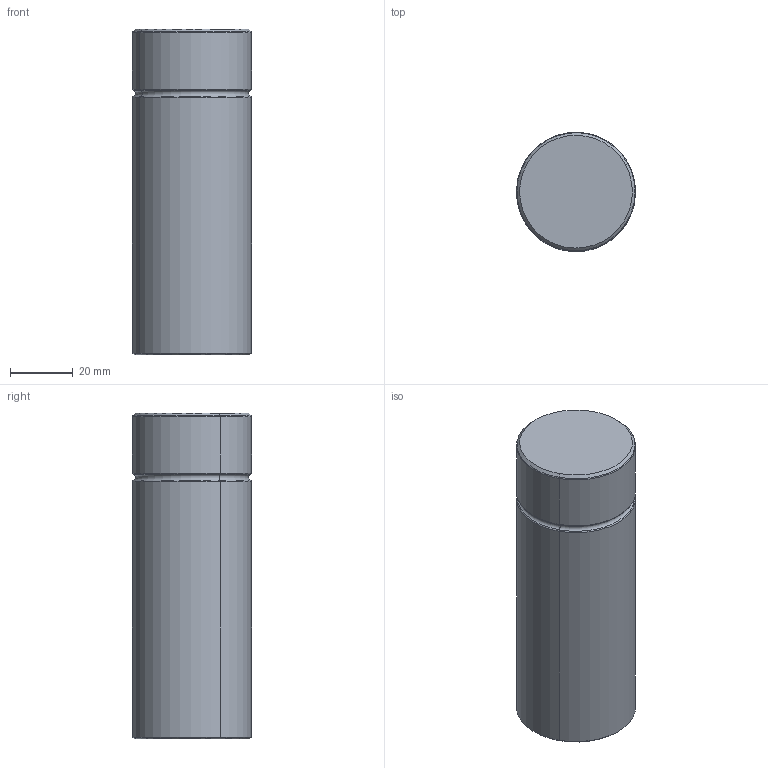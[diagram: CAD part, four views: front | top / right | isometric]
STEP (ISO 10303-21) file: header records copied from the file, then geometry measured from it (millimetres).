
FILE_DESCRIPTION(('CATIA V5 STEP Exchange'),'2;1');
FILE_NAME('W:\CATALOGO GENERAL 2018\FICHEROS CAD\003-TPH\TPH 850\TPH 850x50.stp','2017-10-30T09:50:18+00:00',('none'),('none'),'CATIA Version 5 Release 17 (IN-10)','CATIA V5 STEP AP203','none');
FILE_SCHEMA(('CONFIG_CONTROL_DESIGN'));
Length unit declared in the file: millimetre
Products named in the file (1): CUERPO
Bounding box: 37.99 x 37.99 x 104 mm (x, y, z)
Volume: 116667.7 mm3; surface area: 15348.5 mm2
Topology: 1 solids, 1 shells, 30 faces, 58 edges, 34 vertices
Faces by surface type: cylinder 12, torus 8, plane 6, cone 4
Entity records: 707 total; most frequent: ORIENTED_EDGE 116, CARTESIAN_POINT 110, DIRECTION 92, AXIS2_PLACEMENT_3D 60, EDGE_CURVE 58, CIRCLE 42, EDGE_LOOP 34, VERTEX_POINT 34
